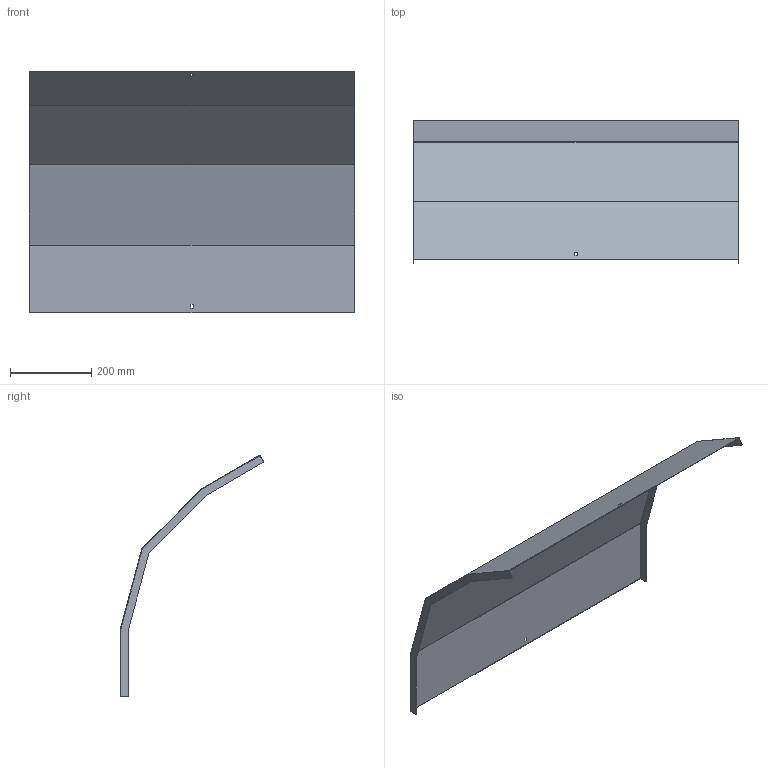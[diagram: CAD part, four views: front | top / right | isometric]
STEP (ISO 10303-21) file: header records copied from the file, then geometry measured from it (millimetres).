
FILE_DESCRIPTION (( 'STEP AP214' ), '1' );
FILE_NAME ('A2_41N3J800.step', '2025-02-21T10:40:51', ( '' ), ( '' ), 'SwSTEP 2.0', 'SolidWorks 2023', '' );
FILE_SCHEMA (( 'AUTOMOTIVE_DESIGN' ));
Length unit declared in the file: millimetre
Products named in the file (1): A2_41N3J800
Bounding box: 803 x 354.25 x 596.25 mm (x, y, z)
Volume: 939765.9 mm3; surface area: 1257814.7 mm2
Topology: 1 solids, 1 shells, 30 faces, 84 edges, 56 vertices
Faces by surface type: plane 30
Entity records: 979 total; most frequent: CARTESIAN_POINT 171, ORIENTED_EDGE 168, DIRECTION 146, EDGE_CURVE 84, VECTOR 84, LINE 84, VERTEX_POINT 56, EDGE_LOOP 34
